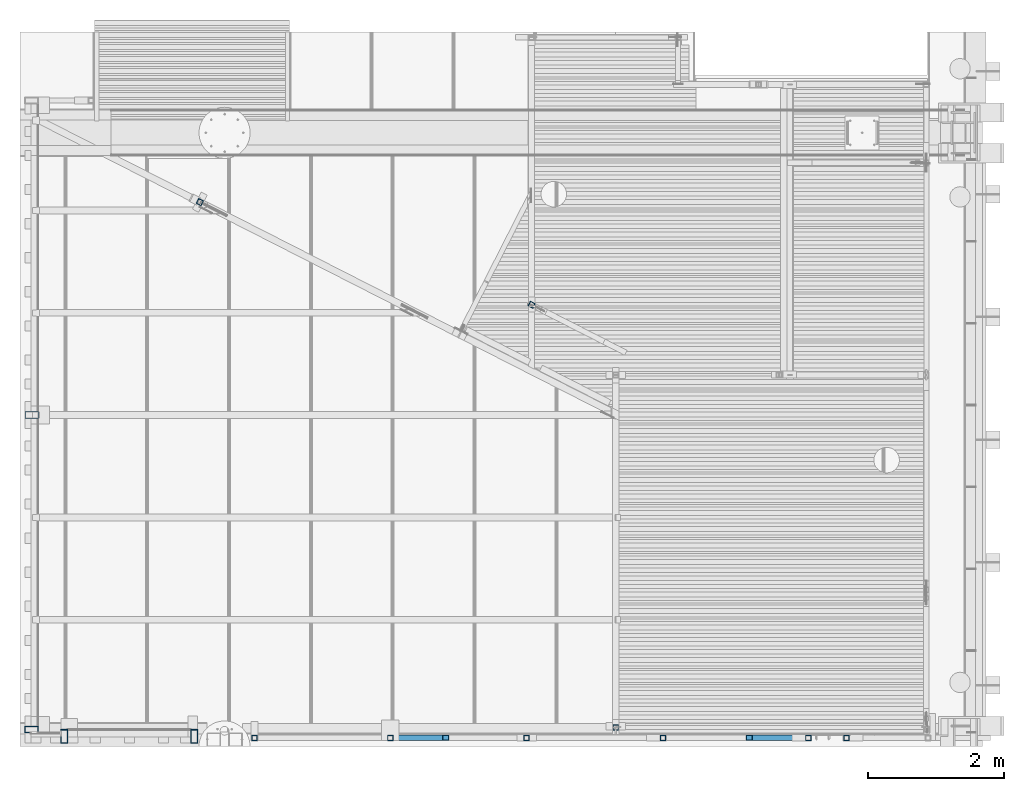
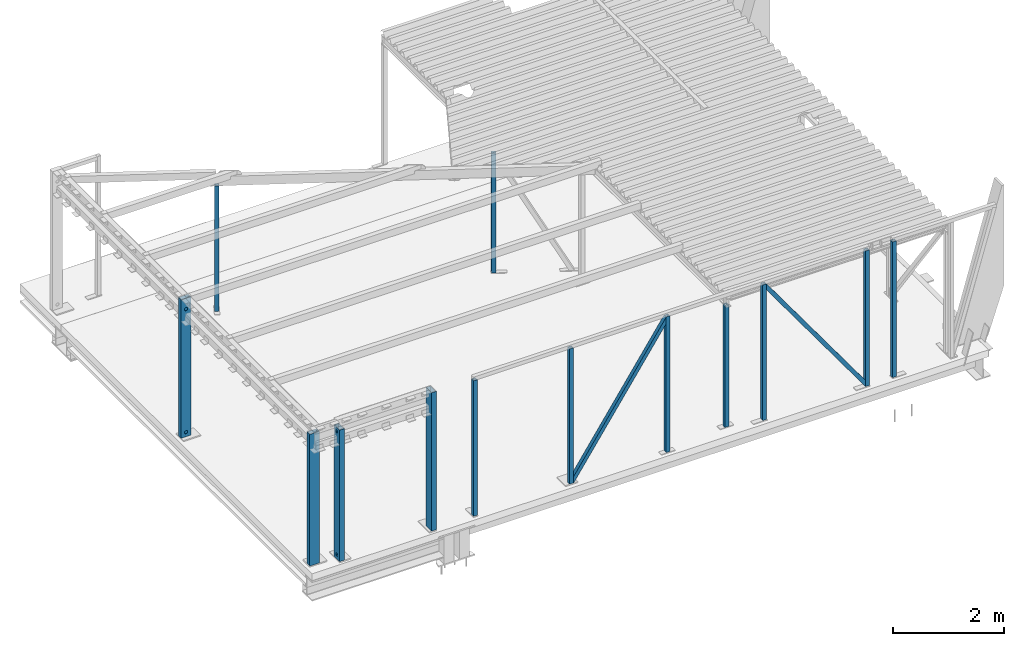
# One storey, part 1 of 30: 15 columns.
"""IFC2X3 building model written with IfcOpenShell, lengths in millimetres."""

from ifc_helpers import new_model, entity, si_unit, converted_unit, derived_unit, direction, frame, origin_with_axes, place, context, subcontext, project, spatial, faceted_brep, material, type_object, element, save


model = new_model("IFC2X3")

# Units and contexts
model_context = context("Model", 3, precision=0.01, world=frame((0.0, 4.29681676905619e-09, 0.0)), true_north=direction((4.01073788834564e-13, 1.0)))
plan_context = context("Plan", 3, precision=0.01, world=frame((0.0, 4.29681676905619e-09, 0.0)), true_north=direction((4.01073788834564e-13, 1.0)))
body_context = subcontext(model_context, "Body", "Model", "MODEL_VIEW")
ifc_project = project(units=[converted_unit("PLANEANGLEUNIT", "DEGREE", entity("IfcPositiveLengthMeasure", 0.0174532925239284), si_unit("PLANEANGLEUNIT", "RADIAN"), dimensions=[0, 0, 0, 0, 0, 0, 0]), si_unit("AREAUNIT", "SQUARE_METRE"), si_unit("LENGTHUNIT", "METRE", prefix="MILLI"), si_unit("MASSUNIT", "GRAM", prefix="KILO"), si_unit("POWERUNIT", "WATT"), si_unit("PRESSUREUNIT", "PASCAL"), si_unit("FORCEUNIT", "NEWTON", prefix="KILO"), si_unit("ELECTRICVOLTAGEUNIT", "VOLT"), si_unit("ELECTRICCURRENTUNIT", "AMPERE"), si_unit("THERMODYNAMICTEMPERATUREUNIT", "DEGREE_CELSIUS"), si_unit("TIMEUNIT", "SECOND"), si_unit("VOLUMEUNIT", "CUBIC_METRE"), derived_unit("LINEARVELOCITYUNIT", [(si_unit("LENGTHUNIT", "METRE"), 1), (si_unit("TIMEUNIT", "SECOND"), -1)]), derived_unit("VOLUMETRICFLOWRATEUNIT", [(si_unit("VOLUMEUNIT", "CUBIC_METRE"), 1), (si_unit("TIMEUNIT", "SECOND"), -1)]), derived_unit("THERMALTRANSMITTANCEUNIT", [(si_unit("POWERUNIT", "WATT"), 1), (si_unit("THERMODYNAMICTEMPERATUREUNIT", "KELVIN"), -1), (si_unit("AREAUNIT", "SQUARE_METRE"), -1)]), derived_unit("SOUNDPRESSUREUNIT", [(si_unit("PRESSUREUNIT", "PASCAL"), 1)])], contexts=[model_context, plan_context])

# Site, building, storey
site_placement = place(None, frame((0.0, -4.29681676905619e-09, 0.0), z_axis=(0.0, 0.0, 1.0), x_axis=(1.0, 0.0, 0.0)))
site = spatial("IfcSite", under=ifc_project, at=site_placement, Name="Gardermoen", CompositionType="ELEMENT")
building_placement = place(site_placement, frame((0.0, 4.29681676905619e-09, 0.0), z_axis=(0.0, 0.0, 1.0), x_axis=(1.0, 0.0, 0.0)))
building = spatial("IfcBuilding", under=site, at=building_placement, Name="TI", CompositionType="ELEMENT")
storey_placement = place(building_placement, origin_with_axes())
storey = spatial("IfcBuildingStorey", under=building, at=storey_placement, Name="F", CompositionType="ELEMENT", Elevation=0.0)

# Columns
ifc_material_1 = material(Name="STEEL/S355")
column_type_1 = type_object("IfcColumnType", Name="RHS200*100*8", PredefinedType="NOTDEFINED")
column_1_placement = place(storey_placement, frame((598169.997607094, 689250.002606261, 210855.0), z_axis=(1.0, 0.0, 0.0), x_axis=(0.0, 0.0, 1.0)))
element("IfcColumn", 1, at=column_1_placement, inside=storey, type_object=column_type_1, material=ifc_material_1, Name="STÅLSØYLE", ObjectType="RHS200*100*8", context=body_context, shape_type="Brep", body=[
    faceted_brep([(2827.33578345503, -50.0, -13.3935550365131), (2827.336470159, -42.000746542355, -13.389860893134), (2819.74942388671, -41.9948514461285, -24.7446765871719), (2819.74873667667, -50.0, -24.7483734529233), (2808.39460671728, -41.9903728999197, -32.3317216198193), (2808.39391912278, -50.0, -32.3354205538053), (2795.00068663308, -41.987992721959, -34.9959371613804), (2794.99999883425, -50.0, -34.9996371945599), (2781.60676655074, -41.9880732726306, -32.3317205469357), (2781.60607875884, -50.0, -32.3354205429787), (2770.25194938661, -41.9906022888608, -24.7446746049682), (2770.25126181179, -50.0, -24.7483734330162), (2762.66490312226, -41.995194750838, -13.3898583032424), (2762.66421594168, -50.0, -13.3935550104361), (2760.00068677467, -42.0011514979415, 0.00406050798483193), (2760.00000010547, -50.0, 0.000366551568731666), (2762.6649031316, -42.0075656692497, 13.3979791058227), (2762.66421701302, -50.0, 13.3942881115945), (2770.2519494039, -42.0134607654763, 24.7527947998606), (2770.2512637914, -50.0, 24.7491065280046), (2781.60676657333, -42.017939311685, 32.339839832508), (2781.60608134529, -50.0, 32.3361536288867), (2795.00068665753, -42.0203194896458, 35.0040553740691), (2795.00000163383, -50.0, 35.0003702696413), (2808.39460673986, -42.0202389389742, 32.3398387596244), (2808.39392170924, -50.0, 32.3361536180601), (2819.749423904, -42.017709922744, 24.7527928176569), (2819.74873865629, -50.0, 24.7491065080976), (2827.33647016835, -42.0131174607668, 13.3979765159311), (2827.3357845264, -50.0, 13.3942880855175), (2830.00068651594, -42.0071607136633, 0.00405770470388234), (2830.0000003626, -50.0, 0.000366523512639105), (0.0, -50.0, -100.0), (0.0, 50.0, -100.0), (2882.0006866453, 50.0, -100.0), (2882.0006866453, -50.0, -100.0), (-1.39698386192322e-06, 50.0000000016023, 99.999992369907), (-1.39791518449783e-06, -49.9999999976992, 99.999992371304), (2882.0006866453, -50.0, 100.0), (2882.0006866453, 50.0, 100.0), (0.0, 42.0, 92.0), (0.0, 42.0, -92.0), (2882.0006866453, 42.0, -92.0), (2882.0006866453, 42.0, 92.0), (0.0, -42.0, 92.0), (2882.0006866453, -42.0, 92.0), (0.0, -42.0, -92.0), (2882.0006866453, -42.0, -92.0), (124.748736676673, -50.0, -24.7483734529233), (113.393919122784, -50.0, -32.3354205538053), (99.9999988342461, -50.0, -34.9996371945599), (86.6060787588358, -50.0, -32.3354205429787), (75.2512618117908, -50.0, -24.7483734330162), (67.6642159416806, -50.0, -13.3935550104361), (65.0000001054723, -50.0, 0.000366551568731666), (67.6642170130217, -50.0, 13.3942881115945), (75.2512637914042, -50.0, 24.7491065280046), (86.6060813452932, -50.0, 32.3361536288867), (100.000001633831, -50.0, 35.0003702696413), (113.393921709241, -50.0, 32.3361536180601), (124.748738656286, -50.0, 24.7491065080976), (132.335784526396, -50.0, 13.3942880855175), (135.000000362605, -50.0, 0.000366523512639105), (132.335783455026, -50.0, -13.3935550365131), (124.749423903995, -42.017709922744, 24.7527928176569), (132.336470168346, -42.0131174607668, 13.3979765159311), (113.394606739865, -42.0202389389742, 32.3398387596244), (100.000686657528, -42.0203194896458, 35.0040553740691), (86.6067665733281, -42.017939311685, 32.339839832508), (75.2519494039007, -42.0134607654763, 24.7527947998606), (67.6649031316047, -42.0075656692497, 13.3979791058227), (65.0006867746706, -42.0011514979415, 0.00406050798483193), (67.6649031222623, -41.995194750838, -13.3898583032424), (75.251949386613, -41.9906022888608, -24.7446746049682), (86.6067665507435, -41.9880732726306, -32.3317205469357), (100.00068663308, -41.987992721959, -34.9959371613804), (113.39460671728, -41.9903728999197, -32.3317216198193), (124.749423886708, -41.9948514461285, -24.7446765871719), (132.336470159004, -42.000746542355, -13.389860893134), (135.000686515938, -42.0071607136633, 0.00405770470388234)], [[[0, 1, 2, 3]], [[3, 2, 4, 5]], [[5, 4, 6, 7]], [[7, 6, 8, 9]], [[9, 8, 10, 11]], [[11, 10, 12, 13]], [[13, 12, 14, 15]], [[15, 14, 16, 17]], [[17, 16, 18, 19]], [[19, 18, 20, 21]], [[21, 20, 22, 23]], [[23, 22, 24, 25]], [[25, 24, 26, 27]], [[27, 26, 28, 29]], [[29, 28, 30, 31]], [[31, 30, 1, 0]], [[32, 33, 34, 35]], [[36, 37, 38, 39]], [[33, 36, 39, 34]], [[40, 41, 42, 43]], [[44, 40, 43, 45]], [[32, 37, 36, 33], [40, 44, 46, 41]], [[41, 46, 47, 42]], [[38, 35, 34, 39], [45, 43, 42, 47]], [[37, 32, 35, 38], [3, 5, 7, 9, 11, 13, 15, 17, 19, 21, 23, 25, 27, 29, 31, 0], [48, 49, 50, 51, 52, 53, 54, 55, 56, 57, 58, 59, 60, 61, 62, 63]], [[60, 64, 65, 61]], [[59, 66, 64, 60]], [[58, 67, 66, 59]], [[57, 68, 67, 58]], [[56, 69, 68, 57]], [[55, 70, 69, 56]], [[54, 71, 70, 55]], [[53, 72, 71, 54]], [[52, 73, 72, 53]], [[51, 74, 73, 52]], [[50, 75, 74, 51]], [[49, 76, 75, 50]], [[48, 77, 76, 49]], [[63, 78, 77, 48]], [[62, 79, 78, 63]], [[61, 65, 79, 62]], [[46, 44, 45, 47], [26, 24, 22, 20, 18, 16, 14, 12, 10, 8, 6, 4, 2, 1, 30, 28], [64, 66, 67, 68, 69, 70, 71, 72, 73, 74, 75, 76, 77, 78, 79, 65]]]),
])
column_2_placement = place(storey_placement, frame((600555.233042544, 689149.997607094, 210855.0), z_axis=(0.0, 1.0, 0.0), x_axis=(0.0, 0.0, 1.0)))
element("IfcColumn", 2, at=column_2_placement, inside=storey, type_object=column_type_1, material=ifc_material_1, Name="STÅLSØYLE", ObjectType="RHS200*100*8", context=body_context, shape_type="Brep", body=[
    faceted_brep([(0.0, 42.0, -92.0), (0.0, -42.0, -92.0), (3032.0006866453, -41.9999999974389, -91.9999999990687), (3032.0006866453, 42.0000000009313, -91.9999999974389), (0.0, -42.0, 92.0), (3032.0006866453, -42.0000000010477, 91.9999999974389), (0.0, 42.0, 92.0), (3032.0006866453, 41.9999999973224, 91.9999999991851), (0.0, 50.0, -100.0), (-1.39698386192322e-06, 50.0000000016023, 99.999992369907), (3032.0006866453, 49.9999999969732, 99.9999999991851), (3032.0006866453, 50.0000000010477, -99.9999999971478), (-1.39791518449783e-06, -49.9999999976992, 99.999992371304), (3032.0006866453, -50.0000000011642, 99.9999999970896), (0.0, -50.0, -100.0), (3032.0006866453, -49.9999999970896, -99.9999999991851)], [[[0, 1, 2, 3]], [[1, 4, 5, 2]], [[4, 6, 7, 5]], [[6, 0, 3, 7]], [[8, 9, 10, 11]], [[9, 12, 13, 10]], [[12, 14, 15, 13]], [[14, 8, 11, 15]], [[13, 15, 11, 10], [5, 7, 3, 2]], [[14, 12, 9, 8], [6, 4, 1, 0]]]),
])
column_3_placement = place(storey_placement, frame((598650.0016662, 689149.997607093, 210855.0), z_axis=(0.0, 1.0, 0.0), x_axis=(0.0, 0.0, 1.0)))
element("IfcColumn", 3, at=column_3_placement, inside=storey, type_object=column_type_1, material=ifc_material_1, Name="STÅLSØYLE", ObjectType="RHS200*100*8", context=body_context, shape_type="Brep", body=[
    faceted_brep([(132.336470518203, -50.0, -13.3931925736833), (132.335783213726, -41.9899252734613, -13.3894980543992), (124.748736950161, -41.985339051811, -24.7443143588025), (124.749424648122, -50.0, -24.7480109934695), (113.393919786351, -41.9828139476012, -32.3313603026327), (113.39460770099, -50.0, -32.3350581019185), (99.9999997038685, -41.9827343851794, -34.9955769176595), (100.000687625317, -50.0, -34.9992747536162), (86.6060796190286, -41.9851124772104, -32.3313613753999), (86.6067673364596, -50.0, -32.3350581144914), (75.2512624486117, -41.9895861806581, -24.7443163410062), (75.2519497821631, -50.0, -24.7480110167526), (67.6642161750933, -41.9954744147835, -13.3895006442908), (67.6649030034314, -50.0, -13.3931926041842), (64.9999998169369, -42.0018807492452, 0.00441795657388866), (65.0006860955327, -50.0, 0.000728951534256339), (67.6642161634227, -42.0078298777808, 13.3983367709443), (67.6649019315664, -50.0, 13.3946505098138), (75.2512624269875, -42.0124160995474, 24.7531530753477), (75.2519478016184, -50.0, 24.7494689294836), (86.6060795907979, -42.0149412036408, 32.3401990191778), (86.6067647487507, -50.0, 32.336516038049), (99.9999996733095, -42.0150207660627, 35.0044156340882), (100.000684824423, -50.0, 35.0007326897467), (113.39391975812, -42.0126426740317, 32.340200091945), (113.39460511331, -50.0, 32.3365160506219), (124.748736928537, -42.0081689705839, 24.7531550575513), (124.749422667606, -50.0, 24.749468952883), (132.335783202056, -42.0022807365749, 13.398339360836), (132.336469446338, -50.0, 13.3946505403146), (134.999999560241, -41.9958744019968, 0.00442075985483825), (135.000686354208, -50.0, 0.000728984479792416), (0.0, -50.0, -100.0), (0.0, 50.0, -100.0), (2882.0006866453, 50.0, -100.0), (2882.0006866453, -50.0, -100.0), (-1.39698386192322e-06, 50.0000000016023, 99.999992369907), (-1.39791518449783e-06, -49.9999999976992, 99.999992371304), (2882.0006866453, -50.0, 100.0), (2882.0006866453, 50.0, 100.0), (0.0, 42.0, 92.0), (0.0, 42.0, -92.0), (2882.0006866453, 42.0, -92.0), (2882.0006866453, 42.0, 92.0), (0.0, -42.0, 92.0), (2882.0006866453, -42.0, 92.0), (0.0, -42.0, -92.0), (2882.0006866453, -42.0, -92.0), (2819.74942464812, -50.0, -24.7480109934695), (2808.39460770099, -50.0, -32.3350581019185), (2795.00068762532, -50.0, -34.9992747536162), (2781.60676733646, -50.0, -32.3350581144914), (2770.25194978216, -50.0, -24.7480110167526), (2762.66490300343, -50.0, -13.3931926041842), (2760.00068609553, -50.0, 0.000728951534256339), (2762.66490193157, -50.0, 13.3946505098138), (2770.25194780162, -50.0, 24.7494689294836), (2781.60676474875, -50.0, 32.336516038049), (2795.00068482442, -50.0, 35.0007326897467), (2808.39460511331, -50.0, 32.3365160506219), (2819.74942266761, -50.0, 24.749468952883), (2827.33646944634, -50.0, 13.3946505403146), (2830.00068635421, -50.0, 0.000728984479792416), (2827.3364705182, -50.0, -13.3931925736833), (2819.74873692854, -42.0081689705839, 24.7531550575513), (2827.33578320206, -42.0022807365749, 13.398339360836), (2808.39391975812, -42.0126426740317, 32.340200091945), (2794.99999967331, -42.0150207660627, 35.0044156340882), (2781.6060795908, -42.0149412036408, 32.3401990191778), (2770.25126242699, -42.0124160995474, 24.7531530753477), (2762.66421616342, -42.0078298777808, 13.3983367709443), (2759.99999981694, -42.0018807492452, 0.00441795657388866), (2762.66421617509, -41.9954744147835, -13.3895006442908), (2770.25126244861, -41.9895861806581, -24.7443163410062), (2781.60607961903, -41.9851124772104, -32.3313613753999), (2794.99999970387, -41.9827343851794, -34.9955769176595), (2808.39391978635, -41.9828139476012, -32.3313603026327), (2819.74873695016, -41.985339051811, -24.7443143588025), (2827.33578321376, -41.9899252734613, -13.3894980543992), (2829.99999956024, -41.9958744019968, 0.00442075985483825)], [[[0, 1, 2, 3]], [[3, 2, 4, 5]], [[5, 4, 6, 7]], [[7, 6, 8, 9]], [[9, 8, 10, 11]], [[11, 10, 12, 13]], [[13, 12, 14, 15]], [[15, 14, 16, 17]], [[17, 16, 18, 19]], [[19, 18, 20, 21]], [[21, 20, 22, 23]], [[23, 22, 24, 25]], [[25, 24, 26, 27]], [[27, 26, 28, 29]], [[29, 28, 30, 31]], [[31, 30, 1, 0]], [[32, 33, 34, 35]], [[36, 37, 38, 39]], [[33, 36, 39, 34]], [[40, 41, 42, 43]], [[44, 40, 43, 45]], [[32, 37, 36, 33], [40, 44, 46, 41]], [[41, 46, 47, 42]], [[38, 35, 34, 39], [45, 43, 42, 47]], [[37, 32, 35, 38], [3, 5, 7, 9, 11, 13, 15, 17, 19, 21, 23, 25, 27, 29, 31, 0], [48, 49, 50, 51, 52, 53, 54, 55, 56, 57, 58, 59, 60, 61, 62, 63]], [[60, 64, 65, 61]], [[59, 66, 64, 60]], [[58, 67, 66, 59]], [[57, 68, 67, 58]], [[56, 69, 68, 57]], [[55, 70, 69, 56]], [[54, 71, 70, 55]], [[53, 72, 71, 54]], [[52, 73, 72, 53]], [[51, 74, 73, 52]], [[50, 75, 74, 51]], [[49, 76, 75, 50]], [[48, 77, 76, 49]], [[63, 78, 77, 48]], [[62, 79, 78, 63]], [[61, 65, 79, 62]], [[46, 44, 45, 47], [26, 24, 22, 20, 18, 16, 14, 12, 10, 8, 6, 4, 2, 1, 30, 28], [64, 66, 67, 68, 69, 70, 71, 72, 73, 74, 75, 76, 77, 78, 79, 65]]]),
])
column_4_placement = place(storey_placement, frame((598169.997607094, 693862.002606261, 210855.0), z_axis=(1.0, 0.0, 0.0), x_axis=(0.0, 0.0, 1.0)))
element("IfcColumn", 4, at=column_4_placement, inside=storey, type_object=column_type_1, material=ifc_material_1, Name="STÅLSØYLE", ObjectType="RHS200*100*8", context=body_context, shape_type="Brep", body=[
    faceted_brep([(132.33578345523, 42.0, -13.3935550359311), (132.336470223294, 50.0, -13.3898605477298), (124.74942344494, 50.0, -24.7446789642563), (124.748736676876, 42.0, -24.7483734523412), (113.394605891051, 50.0, -32.3317260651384), (113.393919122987, 42.0, -32.3354205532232), (100.000685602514, 50.0, -34.995942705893), (99.9999988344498, 42.0, -34.9996371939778), (86.6067655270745, 50.0, -32.3317260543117), (86.6060787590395, 42.0, -32.3354205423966), (75.2519485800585, 50.0, -24.7446789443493), (75.2512618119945, 42.0, -24.7483734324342), (67.6649027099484, 50.0, -13.3898605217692), (67.6642159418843, 42.0, -13.393555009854), (65.0006868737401, 50.0, 0.00406104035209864), (65.000000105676, 42.0, 0.000366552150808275), (67.6649037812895, 50.0, 13.3979826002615), (67.6642170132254, 42.0, 13.3942881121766), (75.2519505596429, 50.0, 24.752801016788), (75.2512637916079, 42.0, 24.7491065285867), (86.606768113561, 50.0, 32.3398481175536), (86.6060813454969, 42.0, 32.3361536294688), (100.000688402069, 50.0, 35.0040647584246), (100.000001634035, 42.0, 35.0003702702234), (113.394608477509, 50.0, 32.3398481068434), (113.393921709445, 42.0, 32.3361536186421), (124.749425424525, 50.0, 24.752800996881), (124.74873865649, 42.0, 24.7491065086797), (132.336471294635, 50.0, 13.3979825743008), (132.3357845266, 42.0, 13.3942880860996), (135.000687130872, 50.0, 0.00406101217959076), (135.000000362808, 42.0, 0.000366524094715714), (-1.39698386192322e-06, 50.0000000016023, 99.999992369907), (-1.39791518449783e-06, -49.9999999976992, 99.999992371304), (3032.0006866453, -50.0000000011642, 99.9999999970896), (3032.0006866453, 49.9999999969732, 99.9999999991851), (0.0, -42.0, 92.0), (0.0, 42.0, 92.0), (3032.0006866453, 41.9999999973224, 91.9999999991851), (3032.0006866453, -42.0000000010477, 91.9999999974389), (0.0, -50.0, -100.0), (0.0, 50.0, -100.0), (0.0, -42.0, -92.0), (0.0, 42.0, -92.0), (3032.0006866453, 50.0000000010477, -99.9999999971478), (3032.0006866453, -49.9999999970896, -99.9999999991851), (2819.74873667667, -50.0, -24.7483734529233), (2808.39391912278, -50.0, -32.3354205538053), (2794.99999883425, -50.0, -34.9996371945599), (2781.60607875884, -50.0, -32.3354205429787), (2770.25126181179, -50.0, -24.7483734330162), (2762.66421594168, -50.0, -13.3935550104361), (2760.00000010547, -50.0, 0.000366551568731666), (2762.66421701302, -50.0, 13.3942881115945), (2770.2512637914, -50.0, 24.7491065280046), (2781.60608134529, -50.0, 32.3361536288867), (2795.00000163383, -50.0, 35.0003702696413), (2808.39392170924, -50.0, 32.3361536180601), (2819.74873865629, -50.0, 24.7491065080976), (2827.3357845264, -50.0, 13.3942880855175), (2830.0000003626, -50.0, 0.000366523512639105), (2827.33578345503, -50.0, -13.3935550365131), (2819.74879243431, -42.0, 24.7493992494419), (2827.33583873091, -42.0, 13.39458203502), (2808.39397522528, -42.0, 32.3364455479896), (2795.00005509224, -42.0, 35.0006619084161), (2781.60613495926, -42.0, 32.3364455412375), (2770.25131775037, -42.0, 24.7493992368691), (2762.66427145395, -42.0, 13.3945820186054), (2760.00005509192, -42.0, 0.00066187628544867), (2762.66427145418, -42.0, -13.393258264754), (2770.25131775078, -42.0, -24.7480754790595), (2781.60613495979, -42.0, -32.3351217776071), (2795.00005509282, -42.0, -34.9993381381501), (2808.39397522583, -42.0, -32.335121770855), (2819.74879243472, -42.0, -24.748075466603), (2827.33583873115, -42.0, -13.3932582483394), (2830.00005509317, -42.0, 0.00066189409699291), (3032.0006866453, -41.9999999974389, -91.9999999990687), (3032.0006866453, 42.0000000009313, -91.9999999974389), (2819.74936909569, 42.0, -24.7449735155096), (2808.3945518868, 42.0, -32.332019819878), (2795.00063175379, 42.0, -34.9962361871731), (2781.60671162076, 42.0, -32.3320198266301), (2770.25189441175, 42.0, -24.7449735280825), (2762.66484811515, 42.0, -13.390156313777), (2760.00063175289, 42.0, 0.00376382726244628), (2762.66484811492, 42.0, 13.3976839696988), (2770.25189441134, 42.0, 24.7525011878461), (2781.60671162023, 42.0, 32.3395474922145), (2795.00063175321, 42.0, 35.0037638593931), (2808.39455188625, 42.0, 32.3395474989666), (2819.74936909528, 42.0, 24.7525012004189), (2827.33641539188, 42.0, 13.397683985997), (2830.00063175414, 42.0, 0.00376384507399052), (2827.33641539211, 42.0, -13.3901562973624), (2819.74942401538, 50.0, 24.7527966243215), (2827.33647031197, 50.0, 13.3979794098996), (2808.39460680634, 50.0, 32.3398429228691), (2795.0006866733, 50.0, 35.0040592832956), (2781.60676654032, 50.0, 32.339842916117), (2770.25194933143, 50.0, 24.7527966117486), (2762.66490303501, 50.0, 13.3979793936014), (2760.00068667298, 50.0, 0.00405925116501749), (2762.66490303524, 50.0, -13.3898608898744), (2770.25194933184, 50.0, -24.7446781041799), (2781.60676654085, 50.0, -32.3317244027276), (2795.00068667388, 50.0, -34.9959407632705), (2808.39460680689, 50.0, -32.3317243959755), (2819.74942401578, 50.0, -24.7446780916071), (2827.33647031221, 50.0, -13.3898608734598), (2830.00068667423, 50.0, 0.00405926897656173)], [[[0, 1, 2, 3]], [[3, 2, 4, 5]], [[5, 4, 6, 7]], [[7, 6, 8, 9]], [[9, 8, 10, 11]], [[11, 10, 12, 13]], [[13, 12, 14, 15]], [[15, 14, 16, 17]], [[17, 16, 18, 19]], [[19, 18, 20, 21]], [[21, 20, 22, 23]], [[23, 22, 24, 25]], [[25, 24, 26, 27]], [[27, 26, 28, 29]], [[29, 28, 30, 31]], [[31, 30, 1, 0]], [[32, 33, 34, 35]], [[36, 37, 38, 39]], [[40, 33, 32, 41], [37, 36, 42, 43]], [[40, 41, 44, 45]], [[33, 40, 45, 34], [46, 47, 48, 49, 50, 51, 52, 53, 54, 55, 56, 57, 58, 59, 60, 61]], [[58, 62, 63, 59]], [[57, 64, 62, 58]], [[56, 65, 64, 57]], [[55, 66, 65, 56]], [[54, 67, 66, 55]], [[53, 68, 67, 54]], [[52, 69, 68, 53]], [[51, 70, 69, 52]], [[50, 71, 70, 51]], [[49, 72, 71, 50]], [[48, 73, 72, 49]], [[47, 74, 73, 48]], [[46, 75, 74, 47]], [[61, 76, 75, 46]], [[60, 77, 76, 61]], [[59, 63, 77, 60]], [[42, 36, 39, 78], [62, 64, 65, 66, 67, 68, 69, 70, 71, 72, 73, 74, 75, 76, 77, 63]], [[43, 42, 78, 79]], [[34, 45, 44, 35], [39, 38, 79, 78]], [[37, 43, 79, 38], [3, 5, 7, 9, 11, 13, 15, 17, 19, 21, 23, 25, 27, 29, 31, 0], [80, 81, 82, 83, 84, 85, 86, 87, 88, 89, 90, 91, 92, 93, 94, 95]], [[92, 96, 97, 93]], [[91, 98, 96, 92]], [[90, 99, 98, 91]], [[89, 100, 99, 90]], [[88, 101, 100, 89]], [[87, 102, 101, 88]], [[86, 103, 102, 87]], [[85, 104, 103, 86]], [[84, 105, 104, 85]], [[83, 106, 105, 84]], [[82, 107, 106, 83]], [[81, 108, 107, 82]], [[80, 109, 108, 81]], [[95, 110, 109, 80]], [[94, 111, 110, 95]], [[93, 97, 111, 94]], [[41, 32, 35, 44], [26, 24, 22, 20, 18, 16, 14, 12, 10, 8, 6, 4, 2, 1, 30, 28], [96, 98, 99, 100, 101, 102, 103, 104, 105, 106, 107, 108, 109, 110, 111, 97]]]),
])
ifc_material_2 = material(Name="STEEL/S355J2H")
column_type_2 = type_object("IfcColumnType", Name="RHS80*8", PredefinedType="NOTDEFINED")
column_5_placement = place(storey_placement, frame((606736.332290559, 689280.004876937, 210845.0), z_axis=(0.0, 1.0, 0.0), x_axis=(0.0, 0.0, 1.0)))
element("IfcColumn", 5, at=column_5_placement, inside=storey, type_object=column_type_2, material=ifc_material_2, Name="STÅLSØYLE", ObjectType="RHS80*8", context=body_context, shape_type="Brep", body=[
    faceted_brep([(0.0, 33.6999998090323, -33.6999998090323), (0.0, -33.6999998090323, -33.6999998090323), (2666.99988555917, -33.6999998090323, -33.6999998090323), (2666.99988555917, 33.6999998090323, -33.6999998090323), (0.0, -33.6999998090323, 33.6999998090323), (2666.99988555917, -33.6999998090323, 33.6999998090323), (0.0, 33.6999998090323, 33.6999998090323), (2666.99988555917, 33.6999998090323, 33.6999998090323), (0.0, 40.0, -40.0), (0.0, 40.0, 40.0), (2666.99988555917, 40.0, 40.0), (2666.99988555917, 40.0, -40.0), (0.0, -40.0, 40.0), (2666.99988555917, -40.0, 40.0), (0.0, -40.0, -40.0), (2666.99988555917, -40.0, -40.0)], [[[0, 1, 2, 3]], [[1, 4, 5, 2]], [[4, 6, 7, 5]], [[6, 0, 3, 7]], [[8, 9, 10, 11]], [[9, 12, 13, 10]], [[12, 14, 15, 13]], [[14, 8, 11, 15]], [[13, 15, 11, 10], [5, 7, 3, 2]], [[14, 12, 9, 8], [6, 4, 1, 0]]]),
])
column_type_3 = type_object("IfcColumnType", Name="RHS80*80*6.3", PredefinedType="NOTDEFINED")
column_6_placement = place(storey_placement, frame((600637.823256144, 696983.159805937, 210845.0), z_axis=(0.453952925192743, 0.891025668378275, 0.0), x_axis=(0.0, 0.0, 1.0)))
element("IfcColumn", 6, at=column_6_placement, inside=storey, type_object=column_type_3, material=ifc_material_2, Name="STÅLSØYLE", ObjectType="RHS80*80*6.3", context=body_context, shape_type="Brep", body=[
    faceted_brep([(0.0, 33.6999998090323, -33.6999998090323), (0.0, -33.6999998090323, -33.6999998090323), (2746.99999999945, -33.6999998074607, -33.6999998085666), (2746.99999999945, 33.6999998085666, -33.6999998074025), (0.0, -33.6999998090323, 33.6999998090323), (2746.99999999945, -33.6999998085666, 33.6999998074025), (0.0, 33.6999998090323, 33.6999998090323), (2746.99999999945, 33.6999998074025, 33.6999998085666), (0.0, 40.0, -40.0), (0.0, 40.0, 40.0), (2746.99999999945, 39.9999999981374, 39.9999999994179), (2746.99999999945, 39.9999999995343, -39.9999999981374), (0.0, -40.0, 40.0), (2746.99999999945, -39.9999999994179, 39.9999999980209), (0.0, -40.0, -40.0), (2746.99999999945, -39.9999999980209, -39.9999999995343)], [[[0, 1, 2, 3]], [[1, 4, 5, 2]], [[4, 6, 7, 5]], [[6, 0, 3, 7]], [[8, 9, 10, 11]], [[9, 12, 13, 10]], [[12, 14, 15, 13]], [[14, 8, 11, 15]], [[13, 15, 11, 10], [5, 7, 3, 2]], [[14, 12, 9, 8], [6, 4, 1, 0]]]),
])
column_7_placement = place(storey_placement, frame((605502.903256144, 695478.249805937, 210895.0), z_axis=(0.453952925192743, 0.891025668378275, 0.0), x_axis=(0.0, 0.0, 1.0)))
element("IfcColumn", 7, at=column_7_placement, inside=storey, type_object=column_type_3, material=ifc_material_2, Name="STÅLSØYLE", ObjectType="RHS80*80*6.3", context=body_context, shape_type="Brep", body=[
    faceted_brep([(2616.9999079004, -39.9999999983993, -16.0016365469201), (2616.99990791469, -33.699999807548, -16.0018832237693), (2410.66289832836, -33.6999998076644, -16.001883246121), (2410.66289833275, -39.9999999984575, -16.0016365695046), (2410.66289832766, -33.699999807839, -4.00188323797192), (2410.66289833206, -39.9999999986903, -4.00163656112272), (2616.99727436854, -39.9999999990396, -4.00163653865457), (2616.99990786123, -33.6999998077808, -4.00188321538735), (2616.99990806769, 33.6999998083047, -16.0045222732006), (2616.99990808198, 39.9999999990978, -16.0047689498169), (2410.6628982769, 39.999999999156, -16.0047689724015), (2410.6628982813, 33.6999998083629, -16.0045222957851), (2410.6628982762, 39.9999999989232, -4.00476896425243), (2410.6628982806, 33.6999998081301, -4.00452228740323), (2616.99726283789, 33.6999998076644, -4.00452226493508), (2616.99990802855, 39.9999999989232, -4.00476894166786), (0.0, -33.6999998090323, 33.6999998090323), (0.0, 33.6999998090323, 33.6999998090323), (2616.99990784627, 33.6999998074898, 33.6999998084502), (2616.99990769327, -33.6999998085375, 33.6999998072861), (2616.99990799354, -33.6999998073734, -33.6999998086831), (0.0, -33.6999998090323, -33.6999998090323), (0.0, 33.6999998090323, -33.6999998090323), (2616.99990814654, 33.699999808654, -33.6999998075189), (0.0, -40.0, -40.0), (0.0, -40.0, 40.0), (0.0, 40.0, 40.0), (0.0, 40.0, -40.0), (2616.99990765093, -39.9999999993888, 39.9999999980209), (2616.99990783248, 39.9999999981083, 39.9999999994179), (2616.99990818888, 39.9999999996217, -39.9999999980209), (2616.99990800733, -39.9999999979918, -39.9999999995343)], [[[0, 1, 2, 3]], [[3, 2, 4, 5]], [[6, 5, 4, 7]], [[8, 9, 10, 11]], [[11, 10, 12, 13]], [[14, 13, 12, 15]], [[16, 17, 18, 19]], [[2, 1, 20, 21, 16, 19, 7, 4]], [[22, 21, 20, 23]], [[24, 25, 26, 27], [17, 16, 21, 22]], [[26, 25, 28, 29]], [[19, 18, 14, 15, 29, 28, 6, 7]], [[10, 9, 30, 27, 26, 29, 15, 12]], [[24, 27, 30, 31]], [[28, 25, 24, 31, 0, 3, 5, 6]], [[31, 30, 9, 8, 23, 20, 1, 0]], [[18, 17, 22, 23, 8, 11, 13, 14]]]),
])
column_8_placement = place(storey_placement, frame((605424.08877473, 689127.503063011, 213791.020481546), z_axis=(-0.826970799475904, -1.93999963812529e-07, 0.562244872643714), x_axis=(-0.562244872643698, -1.31999994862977e-07, -0.826970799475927)))
element("IfcColumn", 8, at=column_8_placement, inside=storey, type_object=column_type_3, material=ifc_material_1, Name="STÅLDIAGONAL", ObjectType="RHS80*80*6.3", context=body_context, shape_type="Brep", body=[
    faceted_brep([(0.0, 33.6999998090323, -33.6999998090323), (0.0, -33.6999998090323, -33.6999998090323), (3523.13611122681, -33.6999997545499, -33.6999997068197), (3523.13611122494, 33.6999998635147, -33.6999997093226), (0.0, -33.6999998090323, 33.6999998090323), (3523.13611122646, -33.6999997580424, 33.6999999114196), (0.0, 33.6999998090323, 33.6999998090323), (3523.13611122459, 33.6999998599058, 33.6999999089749), (0.0, 40.0, -40.0), (0.0, 40.0, 40.0), (3523.13611122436, 40.0000000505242, 40.0000000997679), (3523.13611122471, 40.0000000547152, -39.9999999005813), (0.0, -40.0, 40.0), (3523.13611122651, -39.9999999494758, 40.0000001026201), (0.0, -40.0, -40.0), (3523.13611122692, -39.9999999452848, -39.9999998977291)], [[[0, 1, 2, 3]], [[1, 4, 5, 2]], [[4, 6, 7, 5]], [[6, 0, 3, 7]], [[8, 9, 10, 11]], [[9, 12, 13, 10]], [[12, 14, 15, 13]], [[14, 8, 11, 15]], [[13, 15, 11, 10], [5, 7, 3, 2]], [[14, 12, 9, 8], [6, 4, 1, 0]]]),
])
column_9_placement = place(storey_placement, frame((607436.595482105, 689127.502606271, 213792.967000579), z_axis=(0.810196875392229, 0.0, 0.586157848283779), x_axis=(0.586157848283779, 0.0, -0.810196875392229)))
element("IfcColumn", 9, at=column_9_placement, inside=storey, type_object=column_type_3, material=ifc_material_1, Name="STÅLDIAGONAL", ObjectType="RHS80*80*6.3", context=body_context, shape_type="Brep", body=[
    faceted_brep([(0.0, 33.6999998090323, -33.6999998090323), (0.0, -33.6999998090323, -33.6999998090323), (3609.64202104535, -33.6999998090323, -33.6999999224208), (3609.64202104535, 33.6999998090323, -33.6999999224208), (0.0, -33.6999998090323, 33.6999998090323), (3609.64202104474, -33.6999998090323, 33.6999996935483), (0.0, 33.6999998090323, 33.6999998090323), (3609.64202104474, 33.6999998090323, 33.6999996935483), (0.0, 40.0, -40.0), (0.0, 40.0, 40.0), (3609.64202104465, 40.0, 39.9999998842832), (3609.64202104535, 40.0, -40.0000001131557), (0.0, -40.0, 40.0), (3609.64202104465, -40.0, 39.9999998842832), (0.0, -40.0, -40.0), (3609.64202104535, -40.0, -40.0000001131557)], [[[0, 1, 2, 3]], [[1, 4, 5, 2]], [[4, 6, 7, 5]], [[6, 0, 3, 7]], [[8, 9, 10, 11]], [[9, 12, 13, 10]], [[12, 14, 15, 13]], [[14, 8, 11, 15]], [[13, 15, 11, 10], [5, 7, 3, 2]], [[14, 12, 9, 8], [6, 4, 1, 0]]]),
])
column_10_placement = place(storey_placement, frame((601440.007607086, 689127.502606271, 210845.0), z_axis=(1.0, 0.0, 0.0), x_axis=(0.0, 0.0, 1.0)))
element("IfcColumn", 10, at=column_10_placement, inside=storey, type_object=column_type_3, material=ifc_material_1, Name="STÅLSØYLE", ObjectType="RHS80*80*6.3", context=body_context, shape_type="Brep", body=[
    faceted_brep([(0.0, 33.6999998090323, -33.6999998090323), (0.0, -33.6999998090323, -33.6999998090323), (2970.0006866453, -33.6999998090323, -33.6999998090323), (2970.0006866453, 33.6999998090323, -33.6999998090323), (0.0, -33.6999998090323, 33.6999998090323), (2970.0006866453, -33.6999998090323, 33.6999998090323), (0.0, 33.6999998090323, 33.6999998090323), (2970.0006866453, 33.6999998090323, 33.6999998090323), (0.0, 40.0, -40.0), (0.0, 40.0, 40.0), (2970.0006866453, 40.0, 40.0), (2970.0006866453, 40.0, -40.0), (0.0, -40.0, 40.0), (2970.0006866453, -40.0, 40.0), (0.0, -40.0, -40.0), (2970.0006866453, -40.0, -40.0)], [[[0, 1, 2, 3]], [[1, 4, 5, 2]], [[4, 6, 7, 5]], [[6, 0, 3, 7]], [[8, 9, 10, 11]], [[9, 12, 13, 10]], [[12, 14, 15, 13]], [[14, 8, 11, 15]], [[13, 15, 11, 10], [5, 7, 3, 2]], [[14, 12, 9, 8], [6, 4, 1, 0]]]),
])
column_11_placement = place(storey_placement, frame((603430.007607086, 689127.502606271, 210855.0), z_axis=(1.0, 0.0, 0.0), x_axis=(0.0, 0.0, 1.0)))
element("IfcColumn", 11, at=column_11_placement, inside=storey, type_object=column_type_3, material=ifc_material_1, Name="STÅLSØYLE", ObjectType="RHS80*80*6.3", context=body_context, shape_type="Brep", body=[
    faceted_brep([(0.0, 33.6999998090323, -33.6999998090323), (0.0, -33.6999998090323, -33.6999998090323), (2960.0006866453, -33.6999998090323, -33.6999998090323), (2960.0006866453, 33.6999998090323, -33.6999998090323), (0.0, -33.6999998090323, 33.6999998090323), (2960.0006866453, -33.6999998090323, 33.6999998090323), (0.0, 33.6999998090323, 33.6999998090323), (2960.0006866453, 33.6999998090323, 33.6999998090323), (0.0, 40.0, -40.0), (0.0, 40.0, 40.0), (2960.0006866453, 40.0, 40.0), (2960.0006866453, 40.0, -40.0), (0.0, -40.0, 40.0), (2960.0006866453, -40.0, 40.0), (0.0, -40.0, -40.0), (2960.0006866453, -40.0, -40.0)], [[[0, 1, 2, 3]], [[1, 4, 5, 2]], [[4, 6, 7, 5]], [[6, 0, 3, 7]], [[8, 9, 10, 11]], [[9, 12, 13, 10]], [[12, 14, 15, 13]], [[14, 8, 11, 15]], [[13, 15, 11, 10], [5, 7, 3, 2]], [[14, 12, 9, 8], [6, 4, 1, 0]]]),
])
for number, where, z_axis, x_axis in (
    (12, (605430.007607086, 689127.502606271, 210845.0), (1.0, 0.0, 0.0), (0.0, 0.0, 1.0)),
    (13, (607430.007607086, 689127.502606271, 210845.0), (1.0, 0.0, 0.0), (0.0, 0.0, 1.0)),
    (14, (609560.007607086, 689127.502606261, 210845.0), (1.0, 0.0, 0.0), (0.0, 0.0, 1.0)),
    (15, (610119.992392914, 689127.50260355, 210845.0), (-0.999999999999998, 5.80000057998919e-08, 0.0), (0.0, 0.0, 1.0)),
):
    element("IfcColumn", number, at=place(storey_placement, frame(where, z_axis=z_axis, x_axis=x_axis)), inside=storey, type_object=column_type_3, material=ifc_material_1, Name="STÅLSØYLE", ObjectType="RHS80*80*6.3", context=body_context, shape_type="Brep", body=[
        faceted_brep([(0.0, 33.6999998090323, -33.6999998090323), (0.0, -33.6999998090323, -33.6999998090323), (2970.0006866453, -33.6999998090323, -33.6999998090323), (2970.0006866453, 33.6999998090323, -33.6999998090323), (0.0, -33.6999998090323, 33.6999998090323), (2970.0006866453, -33.6999998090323, 33.6999998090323), (0.0, 33.6999998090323, 33.6999998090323), (2970.0006866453, 33.6999998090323, 33.6999998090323), (0.0, 40.0, -40.0), (0.0, 40.0, 40.0), (2970.0006866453, 40.0, 40.0), (2970.0006866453, 40.0, -40.0), (0.0, -40.0, 40.0), (2970.0006866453, -40.0, 40.0), (0.0, -40.0, -40.0), (2970.0006866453, -40.0, -40.0)], [[[0, 1, 2, 3]], [[1, 4, 5, 2]], [[4, 6, 7, 5]], [[6, 0, 3, 7]], [[8, 9, 10, 11]], [[9, 12, 13, 10]], [[12, 14, 15, 13]], [[14, 8, 11, 15]], [[13, 15, 11, 10], [5, 7, 3, 2]], [[14, 12, 9, 8], [6, 4, 1, 0]]]),
    ])

save(model, "model.ifc")
